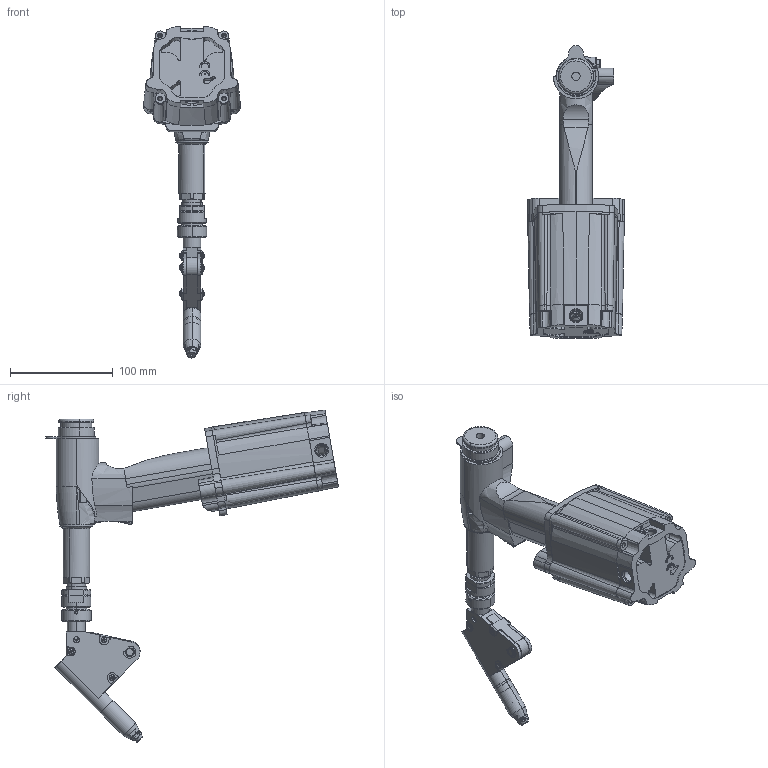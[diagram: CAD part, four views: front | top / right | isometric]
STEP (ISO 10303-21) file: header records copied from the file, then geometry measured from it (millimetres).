
FILE_DESCRIPTION (( 'STEP AP214' ), '1' );
FILE_NAME ('AR2000A-45.STEP', '2025-01-22T02:13:58', ( '' ), ( '' ), 'SwSTEP 2.0', 'SolidWorks 2024', '' );
FILE_SCHEMA (( 'AUTOMOTIVE_DESIGN' ));
Length unit declared in the file: millimetre
Products named in the file (1): AR2000A-45
Bounding box: 94 x 285.26 x 323.39 mm (x, y, z)
Volume: 693436.1 mm3; surface area: 275197.2 mm2
Topology: 46 solids, 46 shells, 2104 faces, 5270 edges, 3341 vertices
Faces by surface type: plane 710, cylinder 633, cone 455, bspline 223, torus 71, sphere 12
Entity records: 191026 total; most frequent: CARTESIAN_POINT 118974, ORIENTED_EDGE 10500, DIRECTION 10257, EDGE_CURVE 5250, AXIS2_PLACEMENT_3D 4071, VERTEX_POINT 3341, EDGE_LOOP 2331, CIRCLE 2189
